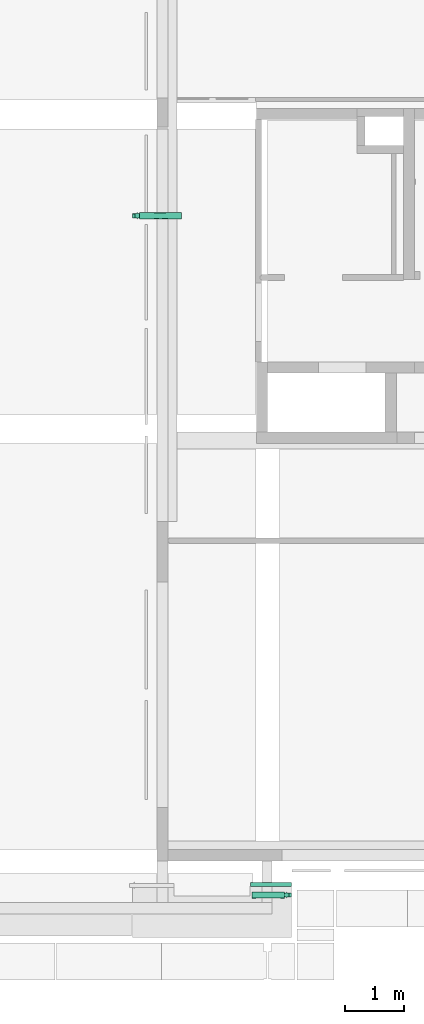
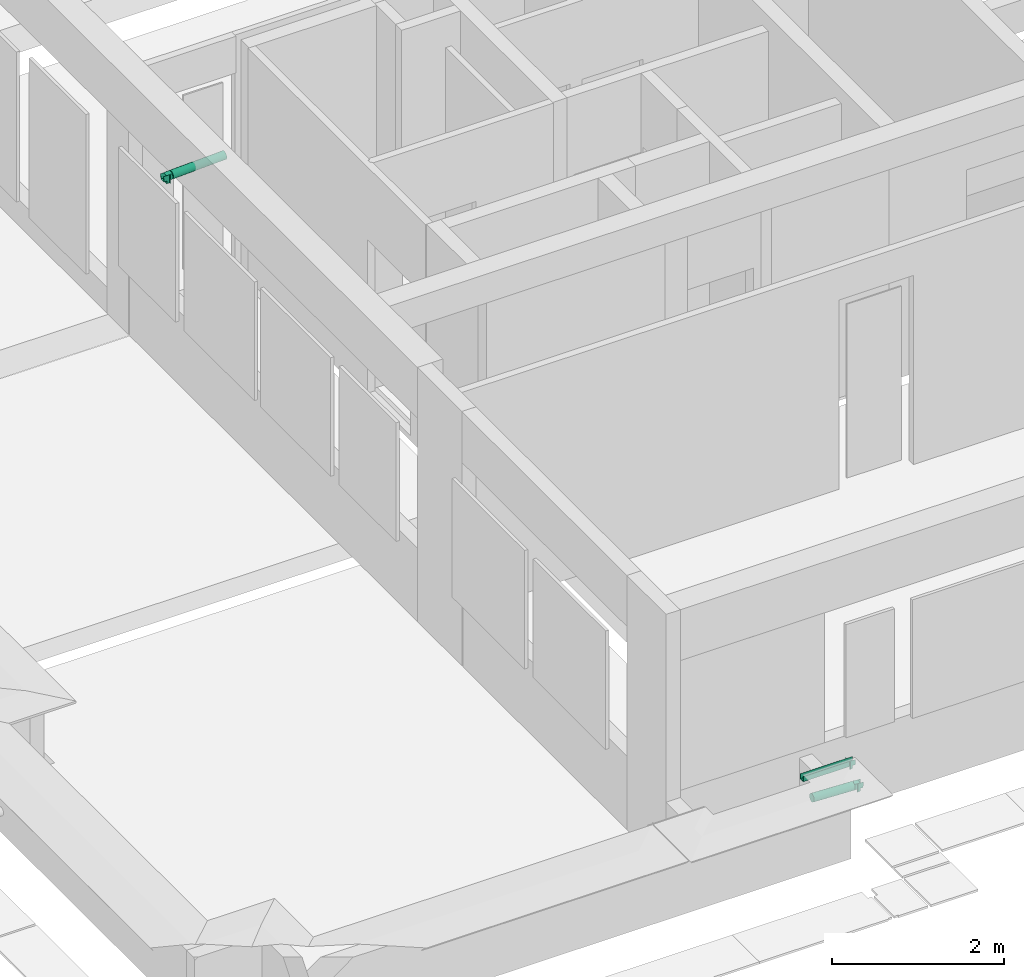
# One storey, part 35 of 38: 3 pipe fittings.
"""IFC4X3_ADD2 building model written with IfcOpenShell, lengths in millimetres."""

from ifc_helpers import new_model, si_unit, direction, frame, origin_with_axes, place, context, subcontext, project, spatial, triangles, polygons, source, transform, mapped, material, element, save


model = new_model("IFC4X3_ADD2")

# Units and contexts
model_context = context("Model", 3, precision=1e-05, world=origin_with_axes(), true_north=direction((0.0, 1.0)))
body_context = subcontext(model_context, "Body", "Model", "MODEL_VIEW")
ifc_project = project(units=[si_unit("LENGTHUNIT", "METRE", prefix="MILLI"), si_unit("AREAUNIT", "SQUARE_METRE"), si_unit("VOLUMEUNIT", "CUBIC_METRE"), si_unit("PLANEANGLEUNIT", "RADIAN"), si_unit("TIMEUNIT", "SECOND"), si_unit("MASSUNIT", "GRAM")], contexts=[model_context])

# Site, building, storey
site_placement = place(None, origin_with_axes())
site = spatial("IfcSite", under=ifc_project, at=site_placement, Name="Site", CompositionType="ELEMENT")
building_placement = place(site_placement, origin_with_axes())
building = spatial("IfcBuilding", under=site, at=building_placement, Name="IFC Building Story")
storey_placement = place(building_placement, frame((0.0, 0.0, 10800.0), z_axis=(0.0, 0.0, 1.0), x_axis=(1.0, 0.0, 0.0)))
storey = spatial("IfcBuildingStorey", under=building, at=storey_placement, Name="030", Elevation=10800.0)

# Pipe fittings
ifc_material = material(Name="<Unnamed>")
shared_shape_1 = source(origin_with_axes(), body_context, "Body", "Tessellation", [
    polygons([(0.0, 77.999999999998, 111.999999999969), (0.0, 77.999999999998, 0.0), (18.0000000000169, 77.999999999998, 0.0), (18.0000000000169, 77.999999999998, 39.9999999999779), (18.0000000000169, 77.999999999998, 111.999999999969), (0.0, 79.9999999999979, 111.999999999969), (0.0, 79.9999999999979, 0.0), (108.0, 79.9999999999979, 0.0), (108.0, 79.9999999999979, 111.999999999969), (108.0, 77.999999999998, 111.999999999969), (108.0, 77.999999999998, 0.0), (90.0000000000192, 79.9999999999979, 111.999999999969), (90.0000000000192, 77.999999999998, 111.999999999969), (90.0000000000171, 79.9999999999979, 39.9999999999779), (90.0000000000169, 77.999999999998, 39.9999999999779), (18.0000000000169, 79.9999999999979, 111.999999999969), (18.0000000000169, 79.9999999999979, 39.9999999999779), (90.0000000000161, 39.999999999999, 0.0), (18.0000000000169, 39.999999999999, 0.0), (20.0000000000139, 79.9999999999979, 0.0), (20.0000000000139, 41.999999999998, 0.0), (88.0000000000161, 41.999999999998, 0.0), (88.0000000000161, 79.9999999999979, 0.0), (90.0000000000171, 77.999999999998, 0.0), (18.0000000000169, 39.999999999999, 39.9999999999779), (90.0000000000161, 39.999999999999, 39.9999999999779), (88.0000000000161, 79.9999999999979, 39.9999999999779), (88.0000000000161, 41.999999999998, 39.9999999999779), (20.0000000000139, 41.999999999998, 39.9999999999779), (20.0000000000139, 79.9999999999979, 39.9999999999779)], [[[4, 5, 1]], [[4, 1, 2]], [[2, 3, 4]], [[6, 7, 2, 1]], [[8, 9, 10, 11]], [[9, 12, 13, 10]], [[13, 12, 14, 15]], [[16, 5, 4, 17]], [[16, 6, 1, 5]], [[3, 2, 7]], [[3, 7, 20]], [[24, 18, 22]], [[24, 22, 23]], [[23, 8, 11]], [[23, 11, 24]], [[18, 19, 21]], [[18, 21, 22]], [[19, 3, 20]], [[19, 20, 21]], [[15, 14, 27]], [[4, 25, 29]], [[4, 29, 30]], [[30, 17, 4]], [[25, 26, 28]], [[25, 28, 29]], [[26, 15, 27]], [[26, 27, 28]], [[26, 18, 24, 15]], [[19, 18, 26, 25]], [[19, 25, 4, 3]], [[17, 30, 20]], [[17, 20, 7]], [[7, 6, 16]], [[7, 16, 17]], [[22, 28, 27, 23]], [[29, 21, 20, 30]], [[28, 22, 21, 29]], [[14, 12, 9]], [[14, 9, 8]], [[8, 23, 14]], [[23, 27, 14]], [[15, 24, 11]], [[11, 10, 13]], [[11, 13, 15]]]),
    polygons([(18.0000000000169, 0.0, 39.9999999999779), (90.0000000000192, 0.0, 39.9999999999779), (90.0000000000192, 0.0, 111.999999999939), (88.000000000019, 0.0, 111.999999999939), (88.000000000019, 0.0, 41.999999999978), (20.0000000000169, 0.0, 41.999999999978), (20.0000000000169, 0.0, 111.999999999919), (18.0000000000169, 0.0, 111.999999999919), (18.0000000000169, 700.0, 39.9999999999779), (18.0000000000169, 700.0, 111.999999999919), (20.0000000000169, 700.0, 111.999999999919), (20.0000000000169, 700.0, 41.999999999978), (88.000000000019, 700.0, 41.999999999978), (88.000000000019, 700.0, 111.999999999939), (90.0000000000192, 700.0, 111.999999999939), (90.0000000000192, 700.0, 39.9999999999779)], [[[6, 7, 8]], [[6, 8, 1]], [[1, 2, 5]], [[1, 5, 6]], [[2, 3, 4]], [[2, 4, 5]], [[13, 14, 15]], [[13, 15, 16]], [[16, 9, 12]], [[16, 12, 13]], [[9, 10, 11]], [[9, 11, 12]], [[2, 1, 9, 16]], [[3, 2, 16, 15]], [[4, 3, 15, 14]], [[5, 4, 14, 13]], [[6, 5, 13, 12]], [[7, 6, 12, 11]], [[1, 8, 10, 9]], [[8, 7, 11, 10]]]),
])
pipe_fitting_1_placement = place(storey_placement, frame((-43093.0, -549.0, 698.0), z_axis=(0.0, 0.0, 1.0), x_axis=(0.0, 1.0, 0.0)))
element("IfcPipeFitting", 1, at=pipe_fitting_1_placement, inside=storey, material=ifc_material, Name="Spuwer 70 x 70 RVS:Type 1", ObjectType="Spuwer 70 x 70 RVS:Type 1", PredefinedType="EXIT", context=body_context, shape_type="MappedRepresentation", body=[
    mapped(shared_shape_1, transform((0.0, 0.0, 0.0))),
])
shared_shape_2 = source(origin_with_axes(), body_context, "Body", "Tessellation", [
    polygons([(2.5952722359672, 80.2423912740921, 117.667377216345), (2.5952722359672, 80.2423912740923, 3.74942743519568e-11), (20.5952722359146, 80.2423912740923, 7.52592654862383e-11), (20.5952722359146, 80.2423912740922, 41.0150039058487), (20.5952722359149, 80.2423912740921, 117.667377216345), (2.5952722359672, 82.2423912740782, 117.667377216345), (2.5952722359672, 82.2423912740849, 7.5123907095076e-11), (110.595272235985, 82.2423912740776, 2.57180943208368e-12), (110.595272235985, 82.2423912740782, 117.667377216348), (110.595272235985, 80.2423912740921, 117.667377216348), (110.595272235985, 80.2423912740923, 2.57180943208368e-12), (92.5952722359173, 82.2423912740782, 117.667377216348), (92.5952722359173, 80.2423912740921, 117.667377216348), (92.5952722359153, 82.2423912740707, 41.0983372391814), (92.5952722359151, 80.2423912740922, 41.0150039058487), (20.5952722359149, 82.2423912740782, 117.667377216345), (20.5952722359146, 82.2423912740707, 41.0983372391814), (20.5952722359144, 42.2423912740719, 1.17626441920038e-10), (20.5952722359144, 42.2423912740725, 39.4316705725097), (92.5952722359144, 42.2423912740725, 39.4316705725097), (92.5952722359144, 42.2423912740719, 1.17626441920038e-10), (92.5952722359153, 80.2423912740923, 7.62067742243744e-11), (22.5952722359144, 82.2423912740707, 41.0983372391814), (22.5952722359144, 82.2423912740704, 1.12618181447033e-10), (22.5952722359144, 44.2423912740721, 9.89469839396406e-11), (90.5952722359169, 44.2423912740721, 9.89469839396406e-11), (90.5952722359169, 82.2423912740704, 1.12618181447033e-10), (90.5952722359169, 82.2423912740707, 41.0983372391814), (90.5952722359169, 44.242391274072, 39.5150039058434), (22.5952722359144, 44.242391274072, 39.5150039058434)], [[[4, 5, 1]], [[4, 1, 2]], [[2, 3, 4]], [[6, 7, 2, 1]], [[8, 9, 10, 11]], [[9, 12, 13, 10]], [[13, 12, 14, 15]], [[16, 5, 4, 17]], [[16, 6, 1, 5]], [[18, 19, 4, 3]], [[20, 21, 22, 15]], [[19, 18, 21, 20]], [[17, 23, 24]], [[17, 24, 7]], [[7, 6, 16]], [[7, 16, 17]], [[3, 2, 7]], [[3, 7, 24]], [[22, 21, 26]], [[22, 26, 27]], [[27, 8, 11]], [[27, 11, 22]], [[21, 18, 25]], [[21, 25, 26]], [[18, 3, 24]], [[18, 24, 25]], [[15, 14, 28]], [[4, 19, 30]], [[4, 30, 23]], [[23, 17, 4]], [[19, 20, 29]], [[19, 29, 30]], [[20, 15, 28]], [[20, 28, 29]], [[26, 29, 28, 27]], [[30, 25, 24, 23]], [[29, 26, 25, 30]], [[14, 12, 9]], [[14, 9, 8]], [[8, 27, 14]], [[27, 28, 14]], [[15, 22, 11]], [[11, 10, 13]], [[11, 13, 15]]]),
    triangles([(3.46935179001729, 121.008650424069, 95.4580331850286), (1.59527223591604, 121.601263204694, 81.2353264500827), (3.46935179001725, 122.193875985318, 67.0126197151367), (8.96387502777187, 122.746103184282, 53.7591669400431), (17.7043992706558, 123.220311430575, 42.3781690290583), (29.0952722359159, 123.584184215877, 33.6452221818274), (42.3602247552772, 123.812924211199, 28.1554622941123), (56.5952722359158, 123.890943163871, 26.2830074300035), (70.8303197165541, 123.812924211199, 28.1554622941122), (84.0952722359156, 123.584184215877, 33.645222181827), (95.4861452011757, 123.220311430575, 42.3781690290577), (104.22666944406, 122.746103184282, 53.7591669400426), (109.721192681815, 122.193875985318, 67.0126197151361), (111.595272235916, 121.601263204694, 81.2353264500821), (109.721192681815, 121.008650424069, 95.4580331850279), (104.22666944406, 120.456423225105, 108.711485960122), (95.4861452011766, 119.982214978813, 120.092483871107), (84.0952722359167, 119.618342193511, 128.825430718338), (70.8303197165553, 119.389602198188, 134.315190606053), (56.595272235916, 119.311583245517, 136.187645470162), (42.3602247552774, 119.389602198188, 134.315190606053), (29.0952722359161, 119.61834219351, 128.825430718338), (17.704399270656, 119.982214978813, 120.092483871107), (8.96387502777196, 120.456423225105, 108.711485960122), (3.46935179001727, 670.53184062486, 118.354832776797), (8.96387502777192, 669.979613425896, 131.60828555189), (17.7043992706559, 669.505405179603, 142.989283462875), (29.095272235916, 669.141532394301, 151.722230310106), (42.3602247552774, 668.912792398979, 157.211990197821), (56.5952722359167, 668.834773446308, 159.08444506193), (70.8303197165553, 668.912792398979, 157.211990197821), (84.0952722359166, 669.141532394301, 151.722230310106), (95.4861452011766, 669.505405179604, 142.989283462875), (104.22666944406, 669.979613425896, 131.60828555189), (109.721192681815, 670.53184062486, 118.354832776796), (111.595272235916, 671.124453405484, 104.13212604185), (109.721192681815, 671.717066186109, 89.9094193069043), (104.22666944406, 672.269293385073, 76.6559665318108), (95.4861452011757, 672.743501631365, 65.2749686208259), (84.0952722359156, 673.107374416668, 56.5420217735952), (70.8303197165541, 673.33611441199, 51.0522618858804), (56.5952722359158, 673.414133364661, 49.1798070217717), (42.3602247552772, 673.33611441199, 51.0522618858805), (29.0952722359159, 673.107374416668, 56.5420217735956), (17.7043992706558, 672.743501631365, 65.2749686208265), (8.96387502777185, 672.269293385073, 76.6559665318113), (3.46935179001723, 671.717066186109, 89.909419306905), (1.59527223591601, 671.124453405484, 104.132126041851), (77.642861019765, 398.478246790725, 41.9144034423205), (67.6750114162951, 398.605597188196, 38.8579935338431), (67.6750113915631, 394.12011943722, 146.509458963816), (56.5952722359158, 382.618184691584, 37.0633091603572), (56.5952722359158, 414.686891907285, 38.3995052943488), (100.22970595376, 397.756727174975, 59.2308739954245), (111.12473961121, 396.063995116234, 99.8564432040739), (56.5952722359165, 410.107532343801, 148.304143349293), (56.595272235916, 378.0388325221, 146.967947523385), (90.0771508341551, 398.179383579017, 49.0871203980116), (107.408646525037, 397.239080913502, 71.6543841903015), (111.124739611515, 396.661721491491, 85.5110092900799), (107.408646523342, 395.486635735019, 113.713068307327), (77.6428610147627, 394.247469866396, 143.453049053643), (90.0771508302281, 394.546333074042, 136.280332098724), (100.229705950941, 394.968989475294, 126.136578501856), (23.1133935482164, 394.546334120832, 136.28033207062), (35.5476832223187, 394.247472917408, 143.453049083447), (45.5155325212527, 394.120128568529, 146.509459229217), (12.9608384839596, 394.968989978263, 126.136578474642), (45.5155330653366, 398.605597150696, 38.8579935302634), (5.78189793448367, 395.486636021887, 113.713068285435), (2.06580485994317, 396.063994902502, 99.856443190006), (2.06580486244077, 396.661721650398, 85.5110092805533), (5.78189795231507, 397.239080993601, 71.6543841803), (35.5476834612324, 398.478246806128, 41.9144034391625), (12.9608385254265, 397.756727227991, 59.23087398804), (23.1133936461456, 398.179383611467, 49.0871203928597)], [[1, 2, 3], [1, 3, 4], [1, 4, 5], [1, 5, 6], [1, 6, 7], [1, 7, 8], [1, 8, 9], [1, 9, 10], [1, 10, 11], [1, 11, 12], [1, 12, 13], [1, 13, 14], [1, 14, 15], [1, 15, 16], [1, 16, 17], [1, 17, 18], [1, 18, 19], [1, 19, 20], [1, 20, 21], [1, 21, 22], [1, 22, 23], [1, 23, 24], [25, 26, 27], [25, 27, 28], [25, 28, 29], [25, 29, 30], [25, 30, 31], [25, 31, 32], [25, 32, 33], [25, 33, 34], [25, 34, 35], [25, 35, 36], [25, 36, 37], [25, 37, 38], [25, 38, 39], [25, 39, 40], [25, 40, 41], [25, 41, 42], [25, 42, 43], [25, 43, 44], [25, 44, 45], [25, 45, 46], [25, 46, 47], [25, 47, 48], [49, 50, 41], [30, 51, 31], [50, 8, 52], [53, 42, 50], [50, 52, 53], [40, 49, 41], [54, 39, 38], [14, 55, 15], [57, 20, 51], [51, 56, 57], [51, 30, 56], [40, 39, 58], [8, 50, 9], [59, 38, 37], [42, 41, 50], [9, 50, 49], [58, 49, 40], [59, 54, 38], [10, 49, 58], [54, 58, 39], [11, 58, 54], [54, 59, 12], [11, 54, 12], [60, 14, 13], [9, 49, 10], [55, 60, 36], [61, 35, 34], [62, 63, 32], [18, 62, 19], [33, 64, 34], [62, 32, 31], [16, 64, 17], [63, 64, 33], [33, 32, 63], [62, 31, 51], [20, 19, 51], [35, 55, 36], [15, 55, 61], [60, 59, 37], [14, 60, 55], [59, 60, 13], [16, 61, 64], [64, 61, 34], [17, 64, 63], [63, 62, 18], [36, 60, 37], [61, 55, 35], [12, 59, 13], [15, 61, 16], [17, 63, 18], [51, 19, 62], [10, 58, 11], [65, 66, 28], [67, 66, 21], [66, 29, 28], [67, 29, 66], [68, 27, 26], [42, 69, 43], [57, 56, 67], [67, 20, 57], [56, 30, 67], [28, 27, 65], [53, 52, 69], [69, 42, 53], [52, 8, 69], [70, 26, 25], [21, 66, 22], [29, 67, 30], [23, 68, 24], [22, 65, 23], [22, 66, 65], [24, 70, 1], [23, 65, 68], [68, 70, 24], [71, 70, 25], [71, 2, 1], [68, 65, 27], [72, 71, 48], [70, 68, 26], [73, 47, 46], [69, 7, 74], [45, 75, 46], [74, 44, 43], [74, 76, 44], [6, 74, 7], [45, 44, 76], [5, 76, 6], [8, 7, 69], [47, 72, 48], [3, 72, 73], [48, 71, 25], [2, 71, 72], [3, 73, 4], [4, 73, 75], [4, 75, 5], [5, 75, 76], [76, 74, 6], [76, 75, 45], [73, 72, 47], [75, 73, 46], [74, 43, 69], [2, 72, 3], [20, 67, 21], [70, 71, 1]]),
    polygons([(90.5952722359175, 120.083261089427, 117.667377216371), (22.5952722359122, 120.083261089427, 117.667377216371), (22.5952722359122, 120.000000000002, 119.665643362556), (90.5952722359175, 120.000000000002, 119.665643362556), (90.5952722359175, 40.0166903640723, 114.331270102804), (90.5952722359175, 39.9334292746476, 116.329536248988), (22.5952722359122, 39.9334292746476, 116.329536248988), (22.5952722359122, 40.0166903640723, 114.331270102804)], [[[1, 2, 3, 4]], [[5, 6, 7, 8]], [[2, 1, 5, 8]], [[4, 3, 7, 6]], [[3, 2, 8, 7]], [[1, 4, 6, 5]]]),
    polygons([(92.5952722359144, 0.0, 114.66564336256), (90.5952722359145, 0.0, 114.66564336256), (90.5952722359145, 3.11934390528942, 39.8013896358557), (22.5952722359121, 3.11934390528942, 39.8013896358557), (22.5952722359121, 0.0, 114.66564336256), (20.5952722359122, 0.0, 114.66564336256), (20.5952722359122, 3.20252640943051, 37.8050095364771), (92.5952722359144, 3.20252640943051, 37.8050095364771), (20.5952722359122, 123.202526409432, 42.8050095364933), (92.5952722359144, 123.202526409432, 42.8050095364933), (22.5952722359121, 123.119343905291, 44.8013896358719), (22.5952722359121, 120.0, 119.665643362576), (90.5952722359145, 123.119343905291, 44.8013896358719), (90.5952722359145, 120.0, 119.665643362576), (92.5952722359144, 120.0, 119.665643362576), (20.5952722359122, 120.0, 119.665643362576)], [[[4, 5, 6]], [[4, 6, 7]], [[7, 8, 3]], [[7, 3, 4]], [[8, 1, 2]], [[8, 2, 3]], [[9, 10, 8, 7]], [[11, 12, 5, 4]], [[13, 11, 4, 3]], [[14, 13, 3, 2]], [[13, 14, 15]], [[13, 15, 10]], [[10, 9, 11]], [[10, 11, 13]], [[9, 16, 12]], [[9, 12, 11]], [[10, 15, 1, 8]], [[16, 9, 7, 6]], [[12, 16, 6, 5]], [[15, 14, 2, 1]]]),
])
pipe_fitting_2_placement = place(storey_placement, frame((-43091.7576087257, -731.595272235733, 485.0), z_axis=(0.0, 0.0, 1.0), x_axis=(0.0, 1.0, 0.0)))
element("IfcPipeFitting", 2, at=pipe_fitting_2_placement, inside=storey, Name="Afwerkstuk spuwer 70 x 70 RVS:Type 1", ObjectType="Afwerkstuk spuwer 70 x 70 RVS:Type 1", PredefinedType="EXIT", context=body_context, shape_type="MappedRepresentation", body=[
    mapped(shared_shape_2, transform((0.0, 0.0, 0.0))),
])
shared_shape_3 = source(origin_with_axes(), body_context, "Body", "Tessellation", [
    polygons([(2.59527223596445, 80.2423912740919, 117.667377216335), (2.59527223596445, 80.2423912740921, 3.79003495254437e-11), (20.5952722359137, 80.2423912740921, 7.30935312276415e-11), (20.5952722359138, 80.242391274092, 41.0150039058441), (20.5952722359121, 80.2423912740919, 117.667377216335), (2.59527223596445, 82.2423912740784, 117.667377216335), (2.59527223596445, 82.2423912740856, 7.30935312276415e-11), (110.595272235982, 82.2423912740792, 0.0), (110.595272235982, 82.2423912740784, 117.667377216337), (110.595272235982, 80.2423912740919, 117.667377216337), (110.595272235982, 80.2423912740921, 0.0), (92.5952722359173, 82.2423912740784, 117.667377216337), (92.5952722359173, 80.2423912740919, 117.667377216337), (92.5952722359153, 82.2423912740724, 41.0983372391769), (92.5952722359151, 80.242391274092, 41.0150039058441), (20.5952722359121, 82.2423912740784, 117.667377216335), (20.5952722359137, 82.2423912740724, 41.0983372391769), (20.5952722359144, 42.2423912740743, 1.12618181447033e-10), (20.5952722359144, 42.2423912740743, 39.4316705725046), (92.5952722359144, 42.2423912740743, 39.4316705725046), (92.5952722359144, 42.2423912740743, 1.12618181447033e-10), (92.5952722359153, 80.2423912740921, 7.25520976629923e-11), (22.5952722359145, 82.2423912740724, 41.0983372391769), (22.5952722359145, 82.2423912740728, 1.08286712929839e-10), (22.5952722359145, 44.2423912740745, 9.3668006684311e-11), (90.5952722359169, 44.2423912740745, 9.3668006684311e-11), (90.5952722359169, 82.2423912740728, 1.08286712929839e-10), (90.5952722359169, 82.2423912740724, 41.0983372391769), (90.5952722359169, 44.2423912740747, 39.5150039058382), (22.5952722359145, 44.2423912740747, 39.5150039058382)], [[[4, 5, 1]], [[4, 1, 2]], [[2, 3, 4]], [[6, 7, 2, 1]], [[8, 9, 10, 11]], [[9, 12, 13, 10]], [[13, 12, 14, 15]], [[16, 5, 4, 17]], [[16, 6, 1, 5]], [[18, 19, 4, 3]], [[20, 21, 22, 15]], [[19, 18, 21, 20]], [[17, 23, 24]], [[17, 24, 7]], [[7, 6, 16]], [[7, 16, 17]], [[3, 2, 7]], [[3, 7, 24]], [[22, 21, 26]], [[22, 26, 27]], [[27, 8, 11]], [[27, 11, 22]], [[21, 18, 25]], [[21, 25, 26]], [[18, 3, 24]], [[18, 24, 25]], [[15, 14, 28]], [[4, 19, 30]], [[4, 30, 23]], [[23, 17, 4]], [[19, 20, 29]], [[19, 29, 30]], [[20, 15, 28]], [[20, 28, 29]], [[26, 29, 28, 27]], [[30, 25, 24, 23]], [[29, 26, 25, 30]], [[14, 12, 9]], [[14, 9, 8]], [[8, 27, 14]], [[27, 28, 14]], [[15, 22, 11]], [[11, 10, 13]], [[11, 13, 15]]]),
    polygons([(1.59527223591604, 121.601263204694, 81.2353264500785), (3.46935179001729, 122.193875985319, 67.0126197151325), (8.96387502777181, 122.746103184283, 53.7591669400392), (17.7043992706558, 123.220311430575, 42.3781690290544), (29.0952722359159, 123.584184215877, 33.6452221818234), (42.3602247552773, 123.8129242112, 28.1554622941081), (56.5952722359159, 123.890943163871, 26.2830074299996), (70.8303197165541, 123.8129242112, 28.1554622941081), (84.0952722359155, 123.584184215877, 33.6452221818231), (95.4861452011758, 123.220311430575, 42.3781690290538), (104.22666944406, 122.746103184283, 53.7591669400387), (109.721192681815, 122.193875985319, 67.012619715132), (111.595272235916, 121.601263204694, 81.235326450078), (109.721192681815, 121.00865042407, 95.458033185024), (104.22666944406, 120.456423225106, 108.711485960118), (95.4861452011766, 119.982214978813, 120.092483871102), (84.0952722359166, 119.618342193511, 128.825430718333), (70.8303197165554, 119.389602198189, 134.315190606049), (56.595272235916, 119.311583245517, 136.187645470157), (42.3602247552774, 119.389602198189, 134.315190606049), (29.095272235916, 119.618342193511, 128.825430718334), (17.704399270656, 119.982214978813, 120.092483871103), (8.96387502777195, 120.456423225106, 108.711485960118), (3.4693517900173, 121.00865042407, 95.4580331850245), (3.46935179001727, 835.388797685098, 125.223872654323), (8.96387502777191, 834.836570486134, 138.477325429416), (17.7043992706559, 834.362362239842, 149.858323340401), (29.095272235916, 833.998489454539, 158.591270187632), (42.3602247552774, 833.769749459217, 164.081030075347), (56.5952722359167, 833.691730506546, 165.953484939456), (70.8303197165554, 833.769749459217, 164.081030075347), (84.0952722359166, 833.998489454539, 158.591270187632), (95.4861452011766, 834.362362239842, 149.858323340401), (104.22666944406, 834.836570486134, 138.477325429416), (109.721192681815, 835.388797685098, 125.223872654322), (111.595272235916, 835.981410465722, 111.001165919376), (109.721192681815, 836.574023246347, 96.7784591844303), (104.22666944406, 837.126250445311, 83.525006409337), (95.4861452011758, 837.600458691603, 72.1440084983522), (84.0952722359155, 837.964331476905, 63.4110616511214), (70.8303197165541, 838.193071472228, 57.9213017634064), (56.5952722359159, 838.271090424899, 56.0488468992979), (42.3602247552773, 838.193071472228, 57.9213017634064), (29.0952722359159, 837.964331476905, 63.4110616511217), (17.7043992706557, 837.600458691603, 72.1440084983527), (8.96387502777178, 837.126250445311, 83.5250064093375), (3.46935179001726, 836.574023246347, 96.7784591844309), (1.59527223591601, 835.981410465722, 111.001165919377), (67.4420018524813, 411.790847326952, 39.3599403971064), (77.6428610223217, 480.906725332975, 45.348923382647), (67.3252399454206, 409.139447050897, 147.206079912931), (77.6428610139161, 476.675948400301, 146.887568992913), (56.5952722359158, 382.618184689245, 37.0633091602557), (56.5952722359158, 481.081016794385, 41.1659271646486), (100.229705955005, 480.185205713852, 62.6653939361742), (90.0771508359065, 492.419651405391, 53.013798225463), (107.408646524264, 467.855769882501, 74.5967462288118), (111.124739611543, 479.090200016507, 88.945529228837), (100.229705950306, 489.209257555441, 130.063256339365), (107.408646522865, 477.915114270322, 117.147588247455), (111.124739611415, 466.680684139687, 102.798805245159), (56.5952722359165, 476.501656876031, 151.070565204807), (90.0771508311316, 465.163022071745, 139.222694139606), (23.1133935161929, 488.786601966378, 140.207009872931), (2.06580485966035, 478.492473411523, 103.290963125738), (5.78189794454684, 466.103324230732, 116.655430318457), (35.5476832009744, 476.67595239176, 146.887569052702), (45.8653043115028, 543.951863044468, 152.823263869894), (12.9608384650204, 477.397468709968, 129.571098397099), (45.8653045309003, 413.63081609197, 39.413228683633), (35.5476834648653, 480.906725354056, 45.3489233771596), (12.9608385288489, 491.996994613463, 63.1575517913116), (5.78189795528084, 479.667559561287, 75.08890411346), (2.06580486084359, 467.278411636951, 88.4533713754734), (23.1133936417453, 468.796073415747, 52.029482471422)], [[[1, 2, 3]], [[1, 3, 4]], [[1, 4, 5]], [[1, 5, 6]], [[1, 6, 7]], [[1, 7, 8]], [[1, 8, 9]], [[1, 9, 10]], [[1, 10, 11]], [[1, 11, 12]], [[1, 12, 13]], [[1, 13, 14]], [[1, 14, 15]], [[1, 15, 16]], [[1, 16, 17]], [[1, 17, 18]], [[1, 18, 19]], [[1, 19, 20]], [[1, 20, 21]], [[1, 21, 22]], [[1, 22, 23]], [[1, 23, 24]], [[25, 26, 27]], [[25, 27, 28]], [[25, 28, 29]], [[25, 29, 30]], [[25, 30, 31]], [[25, 31, 32]], [[25, 32, 33]], [[25, 33, 34]], [[25, 34, 35]], [[25, 35, 36]], [[25, 36, 37]], [[25, 37, 38]], [[25, 38, 39]], [[25, 39, 40]], [[25, 40, 41]], [[25, 41, 42]], [[25, 42, 43]], [[25, 43, 44]], [[25, 44, 45]], [[25, 45, 46]], [[25, 46, 47]], [[25, 47, 48]], [[49, 41, 50]], [[31, 51, 52]], [[49, 7, 53]], [[54, 42, 49]], [[49, 53, 54]], [[8, 49, 50]], [[55, 39, 38]], [[10, 56, 55]], [[39, 55, 56]], [[50, 40, 56]], [[7, 49, 8]], [[38, 37, 57]], [[42, 41, 49]], [[37, 58, 57]], [[41, 40, 50]], [[57, 12, 11]], [[10, 9, 56]], [[34, 33, 59]], [[56, 9, 50]], [[55, 57, 11]], [[36, 58, 37]], [[58, 13, 12]], [[10, 55, 11]], [[35, 60, 61]], [[19, 51, 30, 62]], [[60, 35, 34]], [[51, 31, 30]], [[15, 59, 16]], [[60, 34, 59]], [[52, 32, 31]], [[60, 14, 61]], [[36, 61, 58]], [[63, 32, 52]], [[33, 32, 63]], [[61, 36, 35]], [[13, 61, 14]], [[51, 19, 18]], [[13, 58, 61]], [[40, 39, 56]], [[15, 60, 59]], [[38, 57, 55]], [[63, 52, 17]], [[17, 16, 63]], [[8, 50, 9]], [[52, 51, 18]], [[17, 52, 18]], [[58, 12, 57]], [[16, 59, 63]], [[63, 59, 33]], [[14, 60, 15]], [[28, 27, 64]], [[25, 65, 66]], [[67, 29, 28]], [[68, 29, 67]], [[26, 69, 27]], [[43, 70, 71]], [[30, 68, 19, 62]], [[28, 64, 67]], [[54, 53, 70]], [[70, 42, 54]], [[53, 7, 70]], [[26, 25, 66]], [[20, 67, 21]], [[30, 29, 68]], [[66, 24, 23]], [[46, 45, 72]], [[21, 67, 64]], [[70, 7, 6]], [[64, 22, 21]], [[69, 66, 23]], [[2, 73, 3]], [[65, 1, 24]], [[48, 65, 25]], [[47, 73, 74]], [[22, 69, 23]], [[73, 47, 46]], [[4, 72, 75]], [[70, 43, 42]], [[73, 46, 72]], [[71, 44, 43]], [[45, 44, 75]], [[73, 2, 74]], [[75, 44, 71]], [[3, 72, 4]], [[74, 48, 47]], [[1, 74, 2]], [[27, 69, 64]], [[1, 65, 74]], [[68, 20, 19]], [[3, 73, 72]], [[65, 24, 66]], [[75, 71, 5]], [[5, 4, 75]], [[26, 66, 69]], [[71, 70, 6]], [[22, 64, 69]], [[48, 74, 65]], [[75, 72, 45]], [[20, 68, 67]], [[5, 71, 6]]]),
    polygons([(90.5952722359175, 120.083261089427, 117.667377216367), (22.5952722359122, 120.083261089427, 117.667377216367), (22.5952722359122, 120.000000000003, 119.665643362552), (90.5952722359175, 120.000000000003, 119.665643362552), (90.5952722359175, 40.0166903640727, 114.3312701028), (90.5952722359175, 39.9334292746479, 116.329536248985), (22.5952722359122, 39.9334292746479, 116.329536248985), (22.5952722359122, 40.0166903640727, 114.3312701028)], [[[1, 2, 3, 4]], [[5, 6, 7, 8]], [[2, 1, 5, 8]], [[4, 3, 7, 6]], [[3, 2, 8, 7]], [[1, 4, 6, 5]]]),
    polygons([(92.5952722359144, 0.0, 114.665643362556), (90.5952722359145, 0.0, 114.665643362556), (90.5952722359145, 3.11934390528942, 39.8013896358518), (22.5952722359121, 3.11934390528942, 39.8013896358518), (22.5952722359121, 0.0, 114.665643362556), (20.5952722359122, 0.0, 114.665643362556), (20.5952722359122, 3.20252640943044, 37.8050095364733), (92.5952722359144, 3.20252640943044, 37.8050095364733), (20.5952722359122, 123.202526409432, 42.8050095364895), (92.5952722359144, 123.202526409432, 42.8050095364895), (22.5952722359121, 123.119343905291, 44.801389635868), (22.5952722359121, 120.000000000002, 119.665643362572), (90.5952722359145, 123.119343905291, 44.801389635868), (90.5952722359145, 120.000000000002, 119.665643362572), (92.5952722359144, 120.000000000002, 119.665643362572), (20.5952722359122, 120.000000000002, 119.665643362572)], [[[4, 5, 6]], [[4, 6, 7]], [[7, 8, 3]], [[7, 3, 4]], [[8, 1, 2]], [[8, 2, 3]], [[9, 10, 8, 7]], [[11, 12, 5, 4]], [[13, 11, 4, 3]], [[14, 13, 3, 2]], [[13, 14, 15]], [[13, 15, 10]], [[10, 9, 11]], [[10, 11, 13]], [[9, 16, 12]], [[9, 12, 11]], [[10, 15, 1, 8]], [[16, 9, 7, 6]], [[12, 16, 6, 5]], [[15, 14, 2, 1]]]),
])
pipe_fitting_3_placement = place(storey_placement, frame((-45798.2423912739, 10931.8181604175, 3000.0), z_axis=(0.0, 0.0, 1.0), x_axis=(0.0, -1.0, 0.0)))
element("IfcPipeFitting", 3, at=pipe_fitting_3_placement, inside=storey, Name="Afwerkstuk spuwer 70 x 70 RVS:Type 1", ObjectType="Afwerkstuk spuwer 70 x 70 RVS:Type 1", PredefinedType="EXIT", context=body_context, shape_type="MappedRepresentation", body=[
    mapped(shared_shape_3, transform((0.0, 0.0, 0.0))),
])

save(model, "model.ifc")
